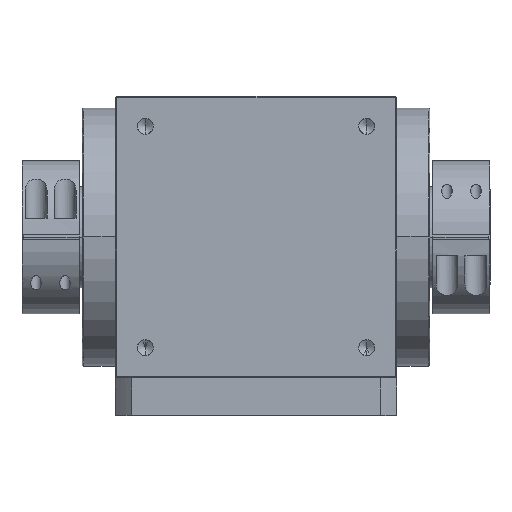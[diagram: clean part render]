
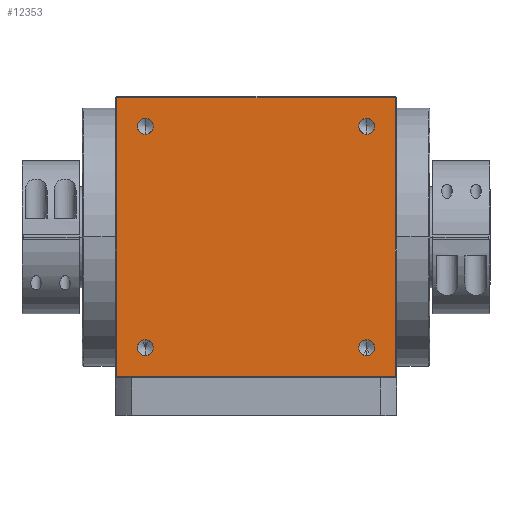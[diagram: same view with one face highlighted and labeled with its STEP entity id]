
A CAD part, top view. The second image highlights one B-rep face of the part: STEP entity #12353.
In plain terms, the highlighted planar face has unit normal (0, 0, 1).
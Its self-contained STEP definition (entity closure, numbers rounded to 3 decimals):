
#104 = CARTESIAN_POINT ( 'NONE',  ( -70.7, -75.8, 90. ) ) ;
#306 = DIRECTION ( 'NONE',  ( 0., 1., 0. ) ) ;
#334 = CARTESIAN_POINT ( 'NONE',  ( 89., 0., 90. ) ) ;
#368 = CARTESIAN_POINT ( 'NONE',  ( -70.7, -65.6, 90. ) ) ;
#496 = CIRCLE ( 'NONE', #6257, 5.1 ) ;
#716 = AXIS2_PLACEMENT_3D ( 'NONE', #7037, #7036, #7017 ) ;
#834 = VERTEX_POINT ( 'NONE', #12005 ) ;
#846 = VERTEX_POINT ( 'NONE', #12076 ) ;
#882 = ORIENTED_EDGE ( 'NONE', *, *, #3322, .F. ) ;
#923 = EDGE_LOOP ( 'NONE', ( #882, #9807 ) ) ;
#1110 = EDGE_CURVE ( 'NONE', #2876, #4472, #1470, .T. ) ;
#1111 = DIRECTION ( 'NONE',  ( 0., -1., 0. ) ) ;
#1113 = DIRECTION ( 'NONE',  ( 0., 0., 1. ) ) ;
#1123 = CARTESIAN_POINT ( 'NONE',  ( -70.7, 70.7, 90. ) ) ;
#1178 = EDGE_CURVE ( 'NONE', #11380, #3491, #5671, .T. ) ;
#1293 = EDGE_CURVE ( 'NONE', #846, #834, #4080, .T. ) ;
#1319 = LINE ( 'NONE', #334, #1463 ) ;
#1401 = ORIENTED_EDGE ( 'NONE', *, *, #3257, .F. ) ;
#1463 = VECTOR ( 'NONE', #306, 1000. ) ;
#1470 = CIRCLE ( 'NONE', #6497, 5.1 ) ;
#1506 = EDGE_CURVE ( 'NONE', #11728, #3577, #4701, .T. ) ;
#1706 = DIRECTION ( 'NONE',  ( 0., -1., 0. ) ) ;
#1721 = DIRECTION ( 'NONE',  ( 0., -1., 0. ) ) ;
#1722 = DIRECTION ( 'NONE',  ( 0., 0., 1. ) ) ;
#1733 = CARTESIAN_POINT ( 'NONE',  ( -70.7, -70.7, 90. ) ) ;
#2040 = CARTESIAN_POINT ( 'NONE',  ( -89., 0., 90. ) ) ;
#2305 = LINE ( 'NONE', #2040, #8177 ) ;
#2493 = ORIENTED_EDGE ( 'NONE', *, *, #2866, .F. ) ;
#2803 = ORIENTED_EDGE ( 'NONE', *, *, #1178, .F. ) ;
#2866 = EDGE_CURVE ( 'NONE', #11320, #6568, #11009, .T. ) ;
#2876 = VERTEX_POINT ( 'NONE', #7501 ) ;
#2964 = EDGE_CURVE ( 'NONE', #3577, #11728, #11020, .T. ) ;
#3042 = EDGE_CURVE ( 'NONE', #834, #846, #496, .T. ) ;
#3049 = FACE_BOUND ( 'NONE', #923, .T. ) ;
#3081 = CARTESIAN_POINT ( 'NONE',  ( 70.7, -75.8, 90. ) ) ;
#3095 = AXIS2_PLACEMENT_3D ( 'NONE', #4291, #4286, #4276 ) ;
#3257 = EDGE_CURVE ( 'NONE', #3491, #11380, #3341, .T. ) ;
#3287 = DIRECTION ( 'NONE',  ( 0., -1., 0. ) ) ;
#3299 = DIRECTION ( 'NONE',  ( 0., 0., 1. ) ) ;
#3301 = CARTESIAN_POINT ( 'NONE',  ( 70.7, 70.7, 90. ) ) ;
#3322 = EDGE_CURVE ( 'NONE', #4472, #2876, #12503, .T. ) ;
#3341 = CIRCLE ( 'NONE', #12398, 5.1 ) ;
#3446 = EDGE_CURVE ( 'NONE', #11320, #9573, #1319, .T. ) ;
#3491 = VERTEX_POINT ( 'NONE', #104 ) ;
#3509 = CARTESIAN_POINT ( 'NONE',  ( -89., 89., 90. ) ) ;
#3542 = EDGE_CURVE ( 'NONE', #9573, #10309, #10485, .T. ) ;
#3553 = EDGE_CURVE ( 'NONE', #10309, #6568, #2305, .T. ) ;
#3577 = VERTEX_POINT ( 'NONE', #3081 ) ;
#3632 = FACE_BOUND ( 'NONE', #5271, .T. ) ;
#4080 = CIRCLE ( 'NONE', #716, 5.1 ) ;
#4276 = DIRECTION ( 'NONE',  ( 0., -1., 0. ) ) ;
#4286 = DIRECTION ( 'NONE',  ( 0., 0., 1. ) ) ;
#4291 = CARTESIAN_POINT ( 'NONE',  ( 70.7, -70.7, 90. ) ) ;
#4472 = VERTEX_POINT ( 'NONE', #4624 ) ;
#4510 = FACE_BOUND ( 'NONE', #4989, .T. ) ;
#4624 = CARTESIAN_POINT ( 'NONE',  ( -70.7, 65.6, 90. ) ) ;
#4626 = ORIENTED_EDGE ( 'NONE', *, *, #3553, .T. ) ;
#4701 = CIRCLE ( 'NONE', #3095, 5.1 ) ;
#4736 = EDGE_LOOP ( 'NONE', ( #11284, #10094 ) ) ;
#4989 = EDGE_LOOP ( 'NONE', ( #10547, #5710 ) ) ;
#5096 = DIRECTION ( 'NONE',  ( 0., -1., 0. ) ) ;
#5110 = DIRECTION ( 'NONE',  ( 0., 0., 1. ) ) ;
#5112 = CARTESIAN_POINT ( 'NONE',  ( 70.7, -70.7, 90. ) ) ;
#5181 = EDGE_LOOP ( 'NONE', ( #6555, #11200, #4626, #2493 ) ) ;
#5271 = EDGE_LOOP ( 'NONE', ( #1401, #2803 ) ) ;
#5428 = VECTOR ( 'NONE', #7419, 1000. ) ;
#5529 = DIRECTION ( 'NONE',  ( -1., 0., 0. ) ) ;
#5627 = AXIS2_PLACEMENT_3D ( 'NONE', #8364, #8346, #8343 ) ;
#5671 = CIRCLE ( 'NONE', #11648, 5.1 ) ;
#5710 = ORIENTED_EDGE ( 'NONE', *, *, #1293, .F. ) ;
#6257 = AXIS2_PLACEMENT_3D ( 'NONE', #3301, #3299, #3287 ) ;
#6275 = FACE_BOUND ( 'NONE', #4736, .T. ) ;
#6474 = AXIS2_PLACEMENT_3D ( 'NONE', #5112, #5110, #5096 ) ;
#6497 = AXIS2_PLACEMENT_3D ( 'NONE', #9362, #9356, #9346 ) ;
#6555 = ORIENTED_EDGE ( 'NONE', *, *, #3446, .T. ) ;
#6568 = VERTEX_POINT ( 'NONE', #8794 ) ;
#6587 = FACE_OUTER_BOUND ( 'NONE', #5181, .T. ) ;
#7017 = DIRECTION ( 'NONE',  ( 0., -1., 0. ) ) ;
#7036 = DIRECTION ( 'NONE',  ( 0., 0., 1. ) ) ;
#7037 = CARTESIAN_POINT ( 'NONE',  ( 70.7, 70.7, 90. ) ) ;
#7212 = CARTESIAN_POINT ( 'NONE',  ( 89., 89., 90. ) ) ;
#7419 = DIRECTION ( 'NONE',  ( -1., 0., 0. ) ) ;
#7501 = CARTESIAN_POINT ( 'NONE',  ( -70.7, 75.8, 90. ) ) ;
#7517 = CARTESIAN_POINT ( 'NONE',  ( 0., -89., 90. ) ) ;
#8177 = VECTOR ( 'NONE', #1706, 1000. ) ;
#8343 = DIRECTION ( 'NONE',  ( -1., 0., 0. ) ) ;
#8346 = DIRECTION ( 'NONE',  ( 0., 0., -1. ) ) ;
#8364 = CARTESIAN_POINT ( 'NONE',  ( 0., 0., 90. ) ) ;
#8503 = DIRECTION ( 'NONE',  ( 0., -1., 0. ) ) ;
#8527 = DIRECTION ( 'NONE',  ( 0., 0., 1. ) ) ;
#8534 = PLANE ( 'NONE',  #5627 ) ;
#8544 = CARTESIAN_POINT ( 'NONE',  ( -70.7, -70.7, 90. ) ) ;
#8794 = CARTESIAN_POINT ( 'NONE',  ( -89., -89., 90. ) ) ;
#9346 = DIRECTION ( 'NONE',  ( 0., -1., 0. ) ) ;
#9356 = DIRECTION ( 'NONE',  ( 0., 0., 1. ) ) ;
#9362 = CARTESIAN_POINT ( 'NONE',  ( -70.7, 70.7, 90. ) ) ;
#9573 = VERTEX_POINT ( 'NONE', #7212 ) ;
#9807 = ORIENTED_EDGE ( 'NONE', *, *, #1110, .F. ) ;
#10038 = CARTESIAN_POINT ( 'NONE',  ( 0., 89., 90. ) ) ;
#10094 = ORIENTED_EDGE ( 'NONE', *, *, #1506, .F. ) ;
#10309 = VERTEX_POINT ( 'NONE', #3509 ) ;
#10485 = LINE ( 'NONE', #10038, #12235 ) ;
#10547 = ORIENTED_EDGE ( 'NONE', *, *, #3042, .F. ) ;
#11009 = LINE ( 'NONE', #7517, #5428 ) ;
#11020 = CIRCLE ( 'NONE', #6474, 5.1 ) ;
#11200 = ORIENTED_EDGE ( 'NONE', *, *, #3542, .T. ) ;
#11284 = ORIENTED_EDGE ( 'NONE', *, *, #2964, .F. ) ;
#11320 = VERTEX_POINT ( 'NONE', #12532 ) ;
#11326 = CARTESIAN_POINT ( 'NONE',  ( 70.7, -65.6, 90. ) ) ;
#11380 = VERTEX_POINT ( 'NONE', #368 ) ;
#11648 = AXIS2_PLACEMENT_3D ( 'NONE', #8544, #8527, #8503 ) ;
#11728 = VERTEX_POINT ( 'NONE', #11326 ) ;
#12005 = CARTESIAN_POINT ( 'NONE',  ( 70.7, 65.6, 90. ) ) ;
#12076 = CARTESIAN_POINT ( 'NONE',  ( 70.7, 75.8, 90. ) ) ;
#12235 = VECTOR ( 'NONE', #5529, 1000. ) ;
#12353 = ADVANCED_FACE ( 'NONE', ( #6587, #3049, #4510, #3632, #6275 ), #8534, .F. ) ;
#12398 = AXIS2_PLACEMENT_3D ( 'NONE', #1733, #1722, #1721 ) ;
#12483 = AXIS2_PLACEMENT_3D ( 'NONE', #1123, #1113, #1111 ) ;
#12503 = CIRCLE ( 'NONE', #12483, 5.1 ) ;
#12532 = CARTESIAN_POINT ( 'NONE',  ( 89., -89., 90. ) ) ;
